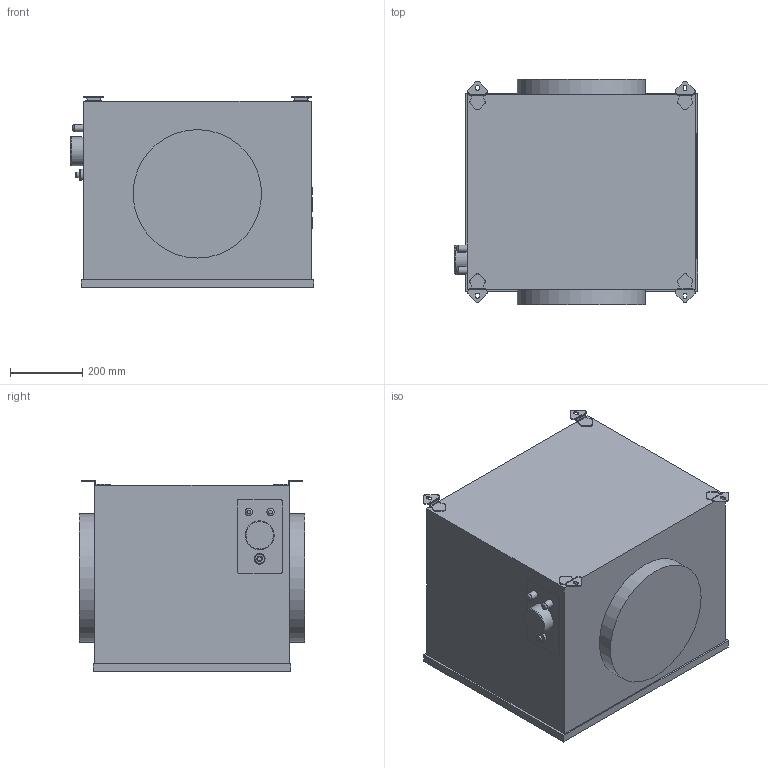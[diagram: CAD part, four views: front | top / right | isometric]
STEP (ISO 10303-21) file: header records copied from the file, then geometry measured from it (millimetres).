
FILE_DESCRIPTION(/* description */ (''),/* implementation_level */ '2;1');
FILE_NAME(/* name */ 'D:\Piotr - Dokumenty\Modele uproszczone\AFB EC\AFB_EC_355\AFB_EC_355.stp',/* time_stamp */ '2021-03-23T10:32:15+01:00',/* author */ ('Piotr.Nowotniak'),/* organization */ (''),/* preprocessor_version */ 'ST-DEVELOPER v18',/* originating_system */ 'Autodesk Inventor 2020',/* authorisation */ '');
FILE_SCHEMA (('AUTOMOTIVE_DESIGN { 1 0 10303 214 3 1 1 }'));
Length unit declared in the file: millimetre
Products named in the file (1): AFB_EC_355
Bounding box: 672.5 x 623.4 x 528.96 mm (x, y, z)
Volume: 183896514 mm3; surface area: 2044592.1 mm2
Topology: 1 solids, 1 shells, 819 faces, 2272 edges, 1508 vertices
Faces by surface type: bspline 392, plane 339, cylinder 83, torus 5
Full cylindrical faces by diameter (mm): 15 x1, 20.2 x2, 30 x1, 80 x1, 355 x2
Entity records: 32482 total; most frequent: CARTESIAN_POINT 13776, ORIENTED_EDGE 4544, DIRECTION 2505, EDGE_CURVE 2272, VERTEX_POINT 1508, LINE 1327, VECTOR 1327, EDGE_LOOP 880
